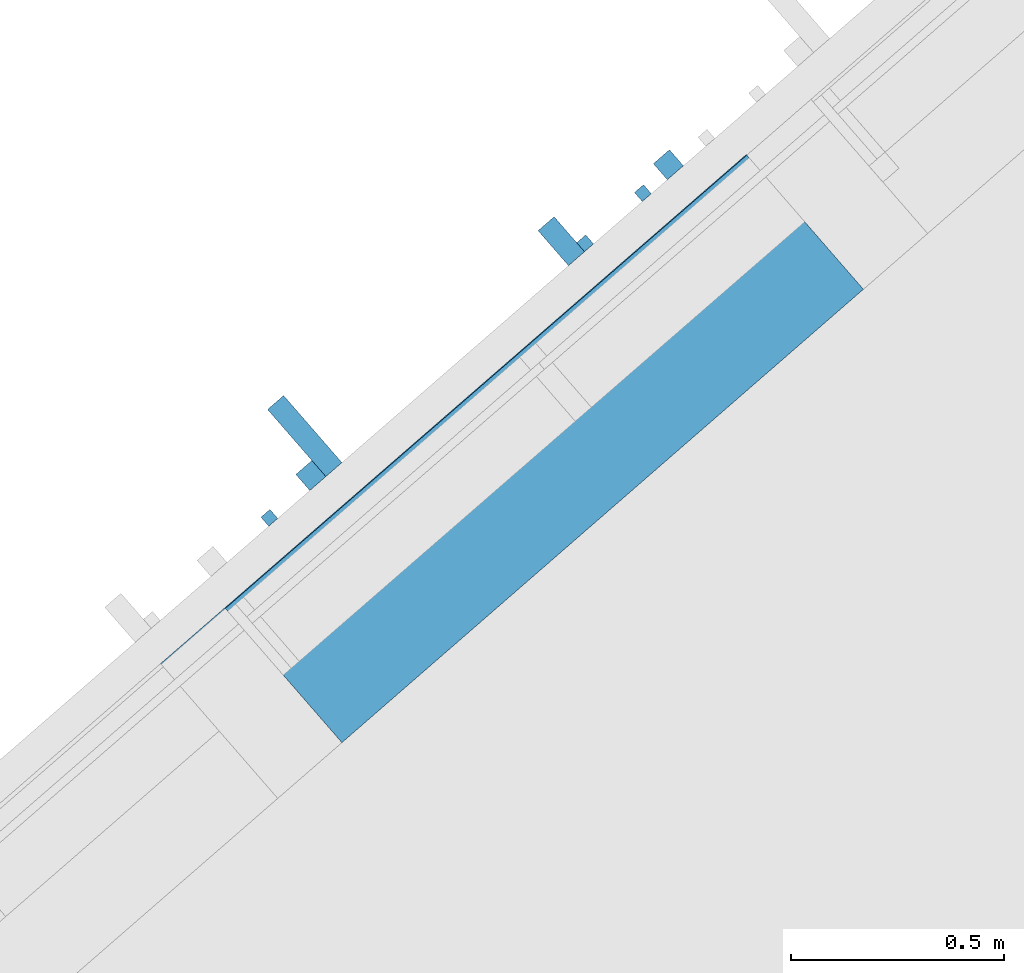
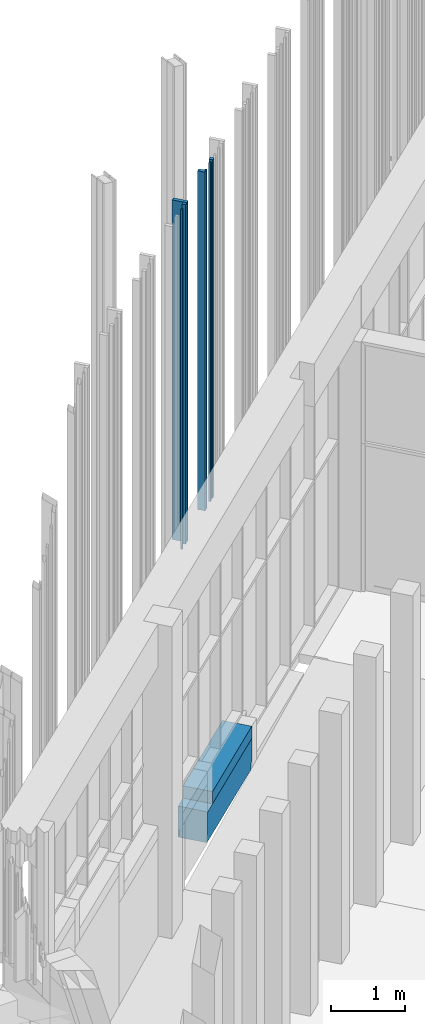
# One storey, part 218 of 390: 9 walls.
"""IFC2X3 building model written with IfcOpenShell, lengths in millimetres."""

from ifc_helpers import new_model, entity, si_unit, converted_unit, derived_unit, money_unit, direction, frame, origin_with_axes, place, context, subcontext, project, spatial, faceted_brep, material, material_list, type_object, element, save


model = new_model("IFC2X3")

# Units and contexts
model_context = context("Model", 3, precision=1e-05, world=origin_with_axes(), true_north=direction((0.0, 1.0)))
body_context = subcontext(model_context, "Body", "Model", "MODEL_VIEW")
ifc_project = project(units=[si_unit("LENGTHUNIT", "METRE", prefix="MILLI"), si_unit("AREAUNIT", "SQUARE_METRE"), si_unit("VOLUMEUNIT", "CUBIC_METRE"), converted_unit("PLANEANGLEUNIT", "DEGREE", entity("IfcPlaneAngleMeasure", 0.0174532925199), si_unit("PLANEANGLEUNIT", "RADIAN"), dimensions=[0, 0, 0, 0, 0, 0, 0]), si_unit("SOLIDANGLEUNIT", "STERADIAN"), money_unit("EUR"), converted_unit("TIMEUNIT", "Year", entity("IfcTimeMeasure", 31556926.0), si_unit("TIMEUNIT", "SECOND"), dimensions=[0, 0, 1, 0, 0, 0, 0]), si_unit("MASSUNIT", "GRAM", prefix="KILO"), si_unit("THERMODYNAMICTEMPERATUREUNIT", "DEGREE_CELSIUS"), si_unit("LUMINOUSINTENSITYUNIT", "LUMEN"), si_unit("ENERGYUNIT", "JOULE", prefix="MEGA"), derived_unit("THERMALCONDUCTANCEUNIT", [(si_unit("POWERUNIT", "WATT"), 1), (si_unit("LENGTHUNIT", "METRE"), -1), (si_unit("THERMODYNAMICTEMPERATUREUNIT", "KELVIN"), -1)]), derived_unit("SPECIFICHEATCAPACITYUNIT", [(si_unit("ENERGYUNIT", "JOULE"), 1), (si_unit("MASSUNIT", "GRAM", prefix="KILO"), -1), (si_unit("THERMODYNAMICTEMPERATUREUNIT", "KELVIN"), -1)]), derived_unit("MASSDENSITYUNIT", [(si_unit("MASSUNIT", "GRAM", prefix="KILO"), 1), (si_unit("VOLUMEUNIT", "CUBIC_METRE"), -1)])], contexts=[model_context])

# Site, building, storey
site_placement = place(None, origin_with_axes())
site = spatial("IfcSite", under=ifc_project, at=site_placement, Name="Site", CompositionType="ELEMENT")
building_placement = place(site_placement, origin_with_axes())
building = spatial("IfcBuilding", under=site, at=building_placement, Name="Building", CompositionType="ELEMENT")
storey_placement = place(building_placement, origin_with_axes())
storey = spatial("IfcBuildingStorey", under=building, at=storey_placement, Name="1 korrus", CompositionType="ELEMENT", Elevation=0.0)

# Walls
ifc_material_1 = material(Name="Krohv - Lubjakivi")
ifc_material_2 = material(Name="Raudbetoon - Konstruktsioon")
ifc_material_3 = material(Name="Soojustus - Plastik Kõva")
ifc_material_4 = material(Name="Membraan - Veekindel")
ifc_material_list_1 = material_list([ifc_material_1, ifc_material_2, ifc_material_3, ifc_material_3, ifc_material_4, ifc_material_4])
wall_type_1 = type_object("IfcWallType", Name="VS-03", PredefinedType="NOTDEFINED")
wall_1_placement = place(storey_placement, frame((129608.453722, 82011.6689305, -150.000001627), z_axis=(0.0, 0.0, 1.0), x_axis=(-0.754709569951, -0.656059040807, 0.0)))
element("IfcWall", 1, at=wall_1_placement, inside=storey, type_object=wall_type_1, material=ifc_material_list_1, Name="VS-03", context=body_context, shape_type="Brep", body=[
    faceted_brep([(1825.00000055, -3.14038288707e-05, 130.0), (0.0, -2.87719359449e-06, 130.0), (0.0, 0.0, 510.000001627), (1825.00000055, 0.0, 510.000001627), (0.0, -10.0, 130.0), (1825.00000055, -10.0, 130.0), (0.0, -10.0, 510.000001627), (1825.00000055, -10.0, 510.000001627)], [[[0, 1, 2, 3]], [[4, 1, 0, 5]], [[1, 4, 6, 2]], [[6, 7, 3, 2]], [[5, 0, 3, 7]], [[4, 5, 7, 6]]]),
    faceted_brep([(0.0, -210.0, 510.000001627), (1825.00000055, -210.0, 510.000001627), (1825.00000055, -10.0, 510.000001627), (0.0, -10.0, 510.000001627), (0.0, -210.0, 0.0), (1825.00000055, -210.0, 0.0), (1825.00000055, -10.0, 0.0), (0.0, -10.0, 0.0)], [[[0, 1, 2, 3]], [[4, 5, 1, 0]], [[2, 1, 5, 6]], [[3, 2, 6, 7]], [[4, 0, 3, 7]], [[7, 6, 5, 4]]]),
    faceted_brep([(0.0, -360.0, 510.000001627), (1825.00000055, -360.0, 510.000001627), (1825.00000055, -210.0, 510.000001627), (0.0, -210.0, 510.000001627), (0.0, -360.0, 0.0), (1825.00000055, -360.0, 0.0), (1825.00000055, -210.0, 0.0), (0.0, -210.0, 0.0)], [[[0, 1, 2, 3]], [[4, 5, 1, 0]], [[2, 1, 5, 6]], [[3, 2, 6, 7]], [[4, 0, 3, 7]], [[7, 6, 5, 4]]]),
    faceted_brep([(0.0, -400.000002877, 130.0), (0.0, -410.000002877, 130.0), (0.0, -410.0, 510.000001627), (0.0, -360.0, 510.000001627), (0.0, -360.0, 0.0), (0.0, -400.000002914, 0.0), (1825.00000055, -400.000031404, 130.0), (1825.00000055, -410.000031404, 130.0), (1825.00000055, -410.0, 510.000001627), (1825.00000055, -360.0, 510.000001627), (1825.00000055, -360.0, 0.0), (1825.00000055, -400.000031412, 0.0)], [[[0, 1, 2, 3, 4, 5]], [[0, 6, 7, 1]], [[1, 7, 8, 2]], [[2, 8, 9, 3]], [[3, 9, 10, 4]], [[11, 5, 4, 10]], [[0, 5, 11, 6]], [[6, 11, 10, 9, 8, 7]]]),
    faceted_brep([(0.0, -415.0, 510.000001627), (1825.00000055, -415.0, 510.000001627), (1825.00000055, -410.0, 510.000001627), (0.0, -410.0, 510.000001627), (0.0, -415.0, 0.0), (1825.00000055, -415.0, 0.0), (1825.00000055, -410.0, 0.0), (0.0, -410.0, 0.0)], [[[0, 1, 2, 3]], [[4, 5, 1, 0]], [[2, 1, 5, 6]], [[3, 2, 6, 7]], [[4, 0, 3, 7]], [[7, 6, 5, 4]]]),
    faceted_brep([(0.0, -420.0, 510.000001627), (1825.00000055, -420.0, 510.000001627), (1825.00000055, -415.0, 510.000001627), (0.0, -415.0, 510.000001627), (0.0, -420.0, 0.0), (1825.00000055, -420.0, 0.0), (1825.00000055, -415.0, 0.0), (0.0, -415.0, 0.0)], [[[0, 1, 2, 3]], [[4, 5, 1, 0]], [[2, 1, 5, 6]], [[3, 2, 6, 7]], [[4, 0, 3, 7]], [[7, 6, 5, 4]]]),
])
ifc_material_5 = material(Name="Site specified")
wall_type_2 = type_object("IfcWallType", Name="Puitfassaadi ribistik", PredefinedType="NOTDEFINED")
wall_2_placement = place(storey_placement, frame((128309.019415, 81573.7447051, 4287.60586403), z_axis=(0.0, 0.0, 1.0), x_axis=(0.754709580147, 0.656059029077, 0.0)))
element("IfcWall", 2, at=wall_2_placement, inside=storey, type_object=wall_type_2, material=ifc_material_5, Name="Site specified", context=body_context, shape_type="Brep", body=[
    faceted_brep([(25.0, 25.0, 5577.39413597), (25.0, 25.0, 0.0), (-25.0, 25.0, 0.0), (-25.0, 25.0, 5577.39413597), (25.0, -25.0, 5577.39413597), (25.0, -25.0, 0.0), (-25.0, -25.0, 0.0), (-25.0, -25.0, 5577.39413597)], [[[0, 1, 2, 3]], [[4, 5, 1, 0]], [[2, 1, 5, 6]], [[3, 2, 6, 7]], [[4, 0, 3, 7]], [[7, 6, 5, 4]]]),
])
wall_3_placement = place(storey_placement, frame((128211.331432, 81474.2506947, 4287.60586403), z_axis=(0.0, 0.0, 1.0), x_axis=(0.754709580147, 0.656059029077, 0.0)))
element("IfcWall", 3, at=wall_3_placement, inside=storey, type_object=wall_type_2, material=ifc_material_5, Name="Site specified", context=body_context, shape_type="Brep", body=[
    faceted_brep([(14.0, 14.0, 5577.39413597), (14.0, 14.0, 0.0), (-14.0, 14.0, 0.0), (-14.0, 14.0, 5577.39413597), (14.0, -14.0, 5577.39413597), (14.0, -14.0, 0.0), (-14.0, -14.0, 0.0), (-14.0, -14.0, 5577.39413597)], [[[0, 1, 2, 3]], [[4, 5, 1, 0]], [[2, 1, 5, 6]], [[3, 2, 6, 7]], [[4, 0, 3, 7]], [[7, 6, 5, 4]]]),
])
wall_4_placement = place(storey_placement, frame((128294.598201, 81666.5470682, 4287.60586403), z_axis=(0.0, 0.0, 1.0), x_axis=(0.754709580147, 0.656059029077, 0.0)))
element("IfcWall", 4, at=wall_4_placement, inside=storey, type_object=wall_type_2, material=ifc_material_5, Name="Site specified", context=body_context, shape_type="Brep", body=[
    faceted_brep([(25.0, 104.5, 5577.39413597), (25.0, 104.5, 0.0), (-25.0, 104.5, 0.0), (-25.0, 104.5, 5577.39413597), (25.0, -104.5, 5577.39413597), (25.0, -104.5, 0.0), (-25.0, -104.5, 0.0), (-25.0, -104.5, 5577.39413597)], [[[0, 1, 2, 3]], [[4, 5, 1, 0]], [[2, 1, 5, 6]], [[3, 2, 6, 7]], [[4, 0, 3, 7]], [[7, 6, 5, 4]]]),
])
wall_5_placement = place(storey_placement, frame((128953.965659, 82119.8127794, 4302.40607568), z_axis=(0.0, 0.0, 1.0), x_axis=(0.754709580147, 0.656059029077, 0.0)))
element("IfcWall", 5, at=wall_5_placement, inside=storey, type_object=wall_type_2, material=ifc_material_5, Name="Site specified", context=body_context, shape_type="Brep", body=[
    faceted_brep([(14.0, 14.0, 5562.59392432), (14.0, 14.0, 0.0), (-14.0, 14.0, 0.0), (-14.0, 14.0, 5562.59392432), (14.0, -14.0, 5562.59392432), (14.0, -14.0, 0.0), (-14.0, -14.0, 0.0), (-14.0, -14.0, 5562.59392432)], [[[0, 1, 2, 3]], [[4, 5, 1, 0]], [[2, 1, 5, 6]], [[3, 2, 6, 7]], [[4, 0, 3, 7]], [[7, 6, 5, 4]]]),
])
wall_6_placement = place(storey_placement, frame((128897.961595, 82124.7922153, 4302.40607568), z_axis=(0.0, 0.0, 1.0), x_axis=(0.754709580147, 0.656059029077, 0.0)))
element("IfcWall", 6, at=wall_6_placement, inside=storey, type_object=wall_type_2, material=ifc_material_5, Name="Site specified", context=body_context, shape_type="Brep", body=[
    faceted_brep([(25.0, 54.5, 5562.59392432), (25.0, 54.5, 0.0), (-25.0, 54.5, 0.0), (-25.0, 54.5, 5562.59392432), (25.0, -54.5, 5562.59392432), (25.0, -54.5, 0.0), (-25.0, -54.5, 0.0), (-25.0, -54.5, 5562.59392432)], [[[0, 1, 2, 3]], [[4, 5, 1, 0]], [[2, 1, 5, 6]], [[3, 2, 6, 7]], [[4, 0, 3, 7]], [[7, 6, 5, 4]]]),
])
wall_7_placement = place(storey_placement, frame((129089.813384, 82237.9034045, 4302.40607568), z_axis=(0.0, 0.0, 1.0), x_axis=(0.754709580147, 0.656059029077, 0.0)))
element("IfcWall", 7, at=wall_7_placement, inside=storey, type_object=wall_type_2, material=ifc_material_5, Name="Site specified", context=body_context, shape_type="Brep", body=[
    faceted_brep([(14.0, 14.0, 5562.59392432), (14.0, 14.0, 0.0), (-14.0, 14.0, 0.0), (-14.0, 14.0, 5562.59392432), (14.0, -14.0, 5562.59392432), (14.0, -14.0, 0.0), (-14.0, -14.0, 0.0), (-14.0, -14.0, 5562.59392432)], [[[0, 1, 2, 3]], [[4, 5, 1, 0]], [[2, 1, 5, 6]], [[3, 2, 6, 7]], [[4, 0, 3, 7]], [[7, 6, 5, 4]]]),
])
wall_8_placement = place(storey_placement, frame((129149.765887, 82304.5944635, 4302.40607568), z_axis=(0.0, 0.0, 1.0), x_axis=(0.754709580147, 0.656059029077, 0.0)))
element("IfcWall", 8, at=wall_8_placement, inside=storey, type_object=wall_type_2, material=ifc_material_5, Name="Site specified", context=body_context, shape_type="Brep", body=[
    faceted_brep([(25.0, 25.0, 5562.59392432), (25.0, 25.0, 0.0), (-25.0, 25.0, 0.0), (-25.0, 25.0, 5562.59392432), (25.0, -25.0, 5562.59392432), (25.0, -25.0, 0.0), (-25.0, -25.0, 0.0), (-25.0, -25.0, 5562.59392432)], [[[0, 1, 2, 3]], [[4, 5, 1, 0]], [[2, 1, 5, 6]], [[3, 2, 6, 7]], [[4, 0, 3, 7]], [[7, 6, 5, 4]]]),
])
ifc_material_6 = material(Name="Plaat - Sein")
ifc_material_list_2 = material_list([ifc_material_1, ifc_material_2, ifc_material_3, ifc_material_3, ifc_material_6])
wall_type_3 = type_object("IfcWallType", Name="VS-05", PredefinedType="NOTDEFINED")
wall_9_placement = place(storey_placement, frame((129608.453722, 82011.6689305, 360.0), z_axis=(0.0, 0.0, 1.0), x_axis=(-0.754709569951, -0.656059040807, 0.0)))
element("IfcWall", 9, at=wall_9_placement, inside=storey, type_object=wall_type_3, material=ifc_material_list_2, Name="VS-05", context=body_context, shape_type="Brep", body=[
    faceted_brep([(1625.00000028, -10.0, 200.0), (1625.00000028, 0.0, 200.0), (0.0, 0.0, 200.0), (0.0, -10.0, 200.0), (1625.00000028, -10.0, 0.0), (1625.00000028, 0.0, 0.0), (0.0, 0.0, 0.0), (0.0, -10.0, 0.0)], [[[0, 1, 2, 3]], [[0, 4, 5, 1]], [[1, 5, 6, 2]], [[3, 2, 6, 7]], [[4, 0, 3, 7]], [[5, 4, 7, 6]]]),
    faceted_brep([(1625.00000028, -210.0, 200.0), (1625.00000028, -10.0, 200.0), (0.0, -10.0, 200.0), (0.0, -210.0, 200.0), (1625.00000028, -210.0, 0.0), (1625.00000028, -10.0, 0.0), (0.0, -10.0, 0.0), (0.0, -210.0, 0.0)], [[[0, 1, 2, 3]], [[0, 4, 5, 1]], [[1, 5, 6, 2]], [[3, 2, 6, 7]], [[4, 0, 3, 7]], [[5, 4, 7, 6]]]),
    faceted_brep([(1625.00000028, -360.0, 200.0), (1625.00000028, -210.0, 200.0), (0.0, -210.0, 200.0), (0.0, -360.0, 200.0), (1625.00000028, -360.0, 0.0), (1625.00000028, -210.0, 0.0), (0.0, -210.0, 0.0), (0.0, -360.0, 0.0)], [[[0, 1, 2, 3]], [[0, 4, 5, 1]], [[1, 5, 6, 2]], [[3, 2, 6, 7]], [[4, 0, 3, 7]], [[5, 4, 7, 6]]]),
    faceted_brep([(1625.00000028, -410.0, 200.0), (1625.00000028, -360.0, 200.0), (0.0, -360.0, 200.0), (0.0, -410.0, 200.0), (1625.00000028, -410.0, 0.0), (1625.00000028, -360.0, 0.0), (0.0, -360.0, 0.0), (0.0, -410.0, 0.0)], [[[0, 1, 2, 3]], [[0, 4, 5, 1]], [[1, 5, 6, 2]], [[3, 2, 6, 7]], [[4, 0, 3, 7]], [[5, 4, 7, 6]]]),
    faceted_brep([(1625.00000028, -418.0, 200.0), (1625.00000028, -410.0, 200.0), (0.0, -410.0, 200.0), (0.0, -418.0, 200.0), (1625.00000028, -418.0, 0.0), (1625.00000028, -410.0, 0.0), (0.0, -410.0, 0.0), (0.0, -418.0, 0.0)], [[[0, 1, 2, 3]], [[0, 4, 5, 1]], [[1, 5, 6, 2]], [[3, 2, 6, 7]], [[4, 0, 3, 7]], [[5, 4, 7, 6]]]),
])

save(model, "model.ifc")
